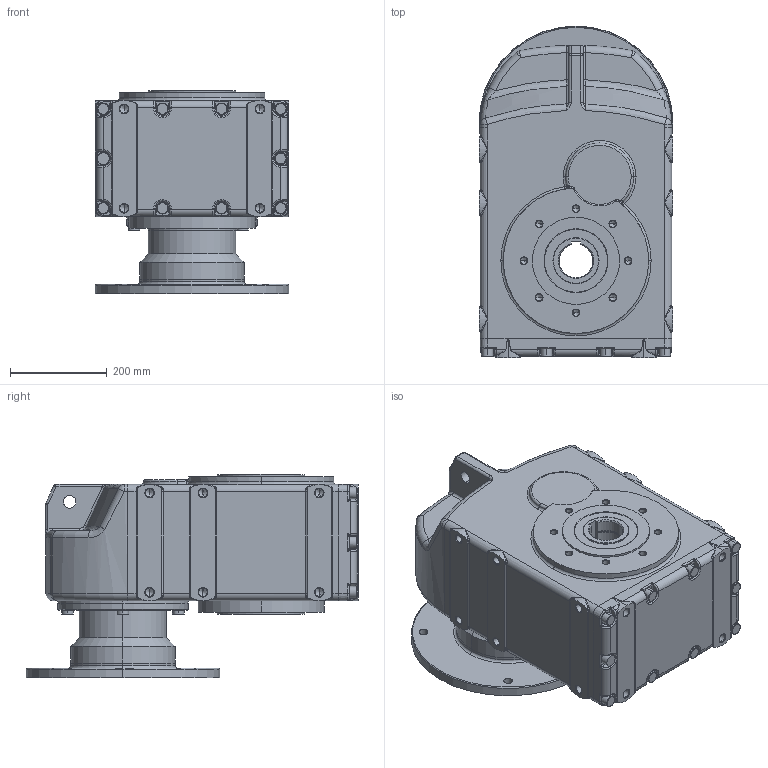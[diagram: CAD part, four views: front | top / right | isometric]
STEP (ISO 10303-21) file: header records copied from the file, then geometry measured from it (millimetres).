
FILE_DESCRIPTION (( 'STEP AP214' ), '1' );
FILE_NAME ('tnc62-f350-ap200.STEP', '2009-09-17T10:38:23', ( '' ), ( '' ), 'SwSTEP 2.0', 'SolidWorks 2003240', '' );
FILE_SCHEMA (( 'AUTOMOTIVE_DESIGN' ));
Products named in the file (4): D6912_Šroub DIN 6912 - M16x40; Skøíò TNC6_Skøíò TNC62 AP200; Priruba MTC82A_300-350-400; tnc62-f350-ap200
Assembly tree (8 placements, depth 2):
  tnc62-f350-ap200
    Skøíò TNC6_Skøíò TNC62 AP200
    D6912_Šroub DIN 6912 - M16x40  x6
    Priruba MTC82A_300-350-400
Bounding box: 400 x 685 x 420 mm (x, y, z)
Volume: 63184531.8 mm3; surface area: 1553758 mm2
Topology: 8 solids, 8 shells, 1261 faces, 2843 edges, 1542 vertices
Faces by surface type: cylinder 429, plane 251, cone 222, bspline 176, torus 170, sphere 13
Entity records: 132722 total; most frequent: CARTESIAN_POINT 108604, DIRECTION 5088, ORIENTED_EDGE 4778, EDGE_CURVE 2389, AXIS2_PLACEMENT_3D 2122, VERTEX_POINT 1387, CIRCLE 1211, EDGE_LOOP 1170
